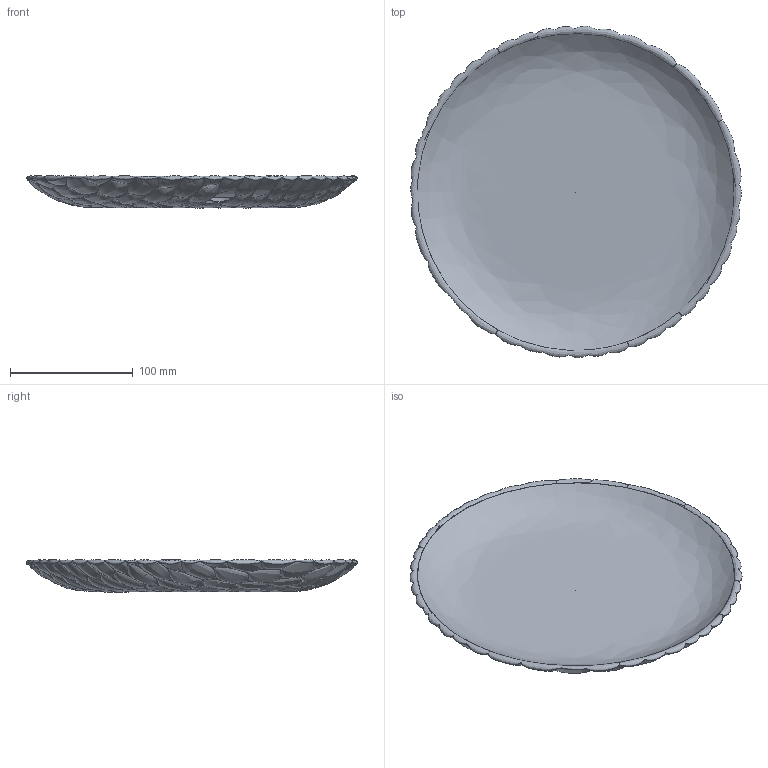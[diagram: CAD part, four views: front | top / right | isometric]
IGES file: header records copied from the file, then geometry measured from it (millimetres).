
Global section: file name: D:\3ddFactory\3D_Kartell\da controllare_3dd\Tavolo urquiola\1495\Jellies Family_3d_Patricia Urquiola_Kartell.igs; native system: Rhinoceros ( Mar 10 2014 ); preprocessor: Trout Lake IGES 012 Mar 10 2014; date: 180210.110511; units: millimetre
Bounding box: 269.62 x 270.27 x 26.31 mm (x, y, z)
Surface area: 128908.3 mm2 (no closed solid volume)
Topology: 0 solids, 0 shells, 160 faces, 1907 edges, 1679 vertices
Faces by surface type: bspline 160
